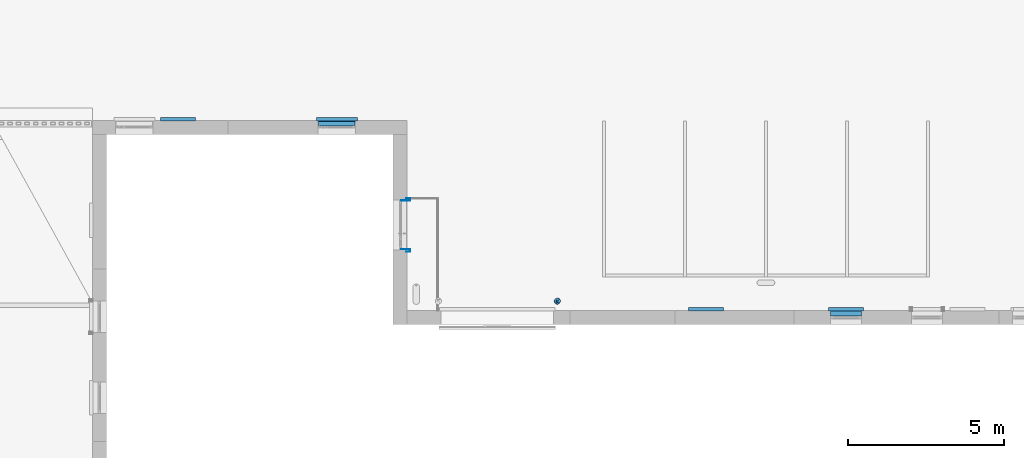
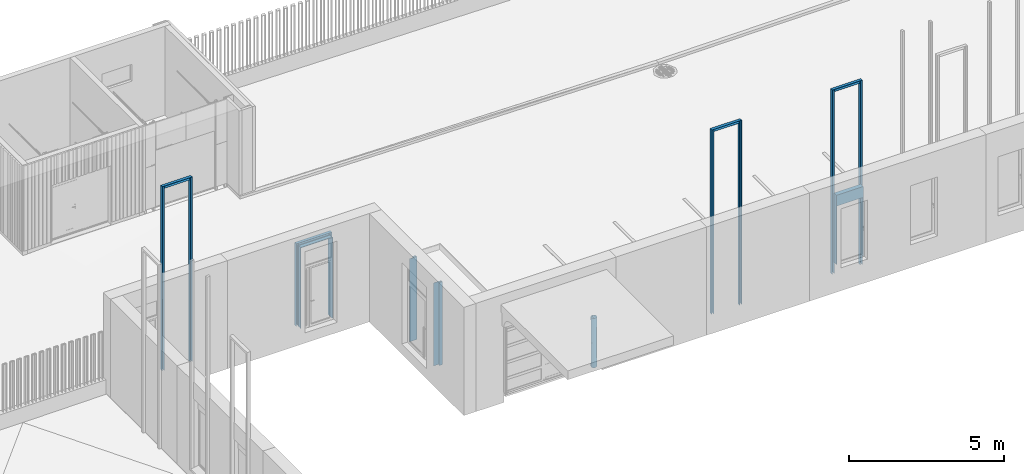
# One storey, part 50 of 77: 7 discrete accessories.
"""IFC2X3 building model written with IfcOpenShell, lengths in millimetres."""

from ifc_helpers import new_model, entity, si_unit, converted_unit, derived_unit, direction, frame, origin, origin_2d_with_axis, place, context, subcontext, project, spatial, polyline, rectangle, outline, extrude, faceted_brep, source, transform, mapped, material, type_object, type_shapes, element, save


model = new_model("IFC2X3")

# Units and contexts
model_context = context("Model", 3, precision=0.01, world=origin(), true_north=direction((6.12303176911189e-17, 1.0)))
body_context = subcontext(model_context, "Body", "Model", "MODEL_VIEW")
ifc_project = project(units=[si_unit("LENGTHUNIT", "METRE", prefix="MILLI"), si_unit("AREAUNIT", "SQUARE_METRE"), si_unit("VOLUMEUNIT", "CUBIC_METRE"), converted_unit("PLANEANGLEUNIT", "DEGREE", entity("IfcRatioMeasure", 0.0174532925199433), si_unit("PLANEANGLEUNIT", "RADIAN"), dimensions=[0, 0, 0, 0, 0, 0, 0]), si_unit("MASSUNIT", "GRAM", prefix="KILO"), derived_unit("MASSDENSITYUNIT", [(si_unit("MASSUNIT", "GRAM", prefix="KILO"), 1), (si_unit("LENGTHUNIT", "METRE"), -3)]), si_unit("TIMEUNIT", "SECOND"), si_unit("FREQUENCYUNIT", "HERTZ"), si_unit("THERMODYNAMICTEMPERATUREUNIT", "DEGREE_CELSIUS"), derived_unit("THERMALTRANSMITTANCEUNIT", [(si_unit("MASSUNIT", "GRAM", prefix="KILO"), 1), (si_unit("THERMODYNAMICTEMPERATUREUNIT", "KELVIN"), -1), (si_unit("TIMEUNIT", "SECOND"), -3)]), derived_unit("VOLUMETRICFLOWRATEUNIT", [(si_unit("LENGTHUNIT", "METRE"), 3), (si_unit("TIMEUNIT", "SECOND"), -1)]), si_unit("ELECTRICCURRENTUNIT", "AMPERE"), si_unit("ELECTRICVOLTAGEUNIT", "VOLT"), si_unit("POWERUNIT", "WATT"), si_unit("FORCEUNIT", "NEWTON", prefix="KILO"), si_unit("ILLUMINANCEUNIT", "LUX"), si_unit("LUMINOUSFLUXUNIT", "LUMEN"), si_unit("LUMINOUSINTENSITYUNIT", "CANDELA"), derived_unit("USERDEFINED", [(si_unit("MASSUNIT", "GRAM", prefix="KILO"), -1), (si_unit("LENGTHUNIT", "METRE"), -2), (si_unit("TIMEUNIT", "SECOND"), 3), (si_unit("LUMINOUSFLUXUNIT", "LUMEN"), 1)]), derived_unit("LINEARVELOCITYUNIT", [(si_unit("LENGTHUNIT", "METRE"), 1), (si_unit("TIMEUNIT", "SECOND"), -1)]), si_unit("PRESSUREUNIT", "PASCAL"), derived_unit("USERDEFINED", [(si_unit("LENGTHUNIT", "METRE"), -2), (si_unit("MASSUNIT", "GRAM", prefix="KILO"), 1), (si_unit("TIMEUNIT", "SECOND"), -2)])], contexts=[model_context])

# Site, building, storey
site_placement = place(None, origin())
site = spatial("IfcSite", under=ifc_project, at=site_placement, Name="Default", CompositionType="ELEMENT")
building_placement = place(site_placement, origin())
building = spatial("IfcBuilding", under=site, at=building_placement, CompositionType="ELEMENT")
storey_placement = place(building_placement, origin())
storey = spatial("IfcBuildingStorey", under=building, at=storey_placement, Name="1. KORRUS", CompositionType="ELEMENT", Elevation=0.0)

# Discrete accessories
ifc_material_1 = material(Name="Default New Material-must-varv")
discrete_accessory_type_1 = type_object("IfcDiscreteAccessoryType", Name="ukse-pollar", material=ifc_material_1)
shared_shape_1 = source(origin(), body_context, "Body", "Brep", [
    faceted_brep([(83.7498316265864, 0.0, 1211.3118064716), (91.8749158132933, 0.0, 1205.6559032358), (100.0, 0.0, 1200.0), (97.6882221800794, 13.1107435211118, 1200.0), (95.8287421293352, 23.6563789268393, 1200.0), (93.969262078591, 34.2020143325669, 1200.0), (76.9390417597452, 0.0, 1216.05282423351), (63.3022221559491, 75.4406506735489, 1200.0), (62.8416939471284, 39.8030161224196, 1218.4526620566), (69.2436158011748, 37.0764107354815, 1215.9880775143), (-97.6882221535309, 13.110743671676, 1200.0), (-100.0, 0.0, 1200.0), (-91.8749158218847, 0.0, 1205.65590322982), (-83.7498316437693, 0.0, 1211.31180645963), (-76.9390417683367, 0.0, 1216.05282422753), (-93.9692620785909, 34.2020143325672, 1200.0), (-95.8287421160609, 23.6563790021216, 1200.0), (61.6281008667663, 0.0, 1224.0406107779), (76.604444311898, 64.278760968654, 1200.0), (85.2868531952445, 49.2403876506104, 1200.0), (-3.54862814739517, 32.9400963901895, 1234.4920463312), (9.03191194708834, 0.0, 1237.09268012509), (4.40844307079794, 58.3778316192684, 1226.30016518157), (54.6170308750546, 47.6944043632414, 1219.50624940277), (44.627798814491, 0.0, 1230.53414834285), (25.5588463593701, 59.4119136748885, 1223.53680168), (33.6824088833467, 92.5416578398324, 1200.0), (17.3648177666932, 98.4807753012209, 1200.0), (-61.6281008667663, 0.0, 1224.0406107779), (-85.2868531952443, 49.2403876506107, 1200.0), (-70.128251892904, 0.0, 1220.79384199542), (36.1276477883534, 0.0, 1233.78091712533), (43.4209832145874, 50.3665618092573, 1222.6504135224), (70.128251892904, 0.0, 1220.79384199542), (-76.6044443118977, 64.2787609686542, 1200.0), (50.0, 86.6025403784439, 1200.0), (-50.0, 86.6025403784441, 1200.0), (-54.4185160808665, 48.7244133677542, 1219.21017541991), (-43.392270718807, 54.0995868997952, 1221.20165944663), (27.095735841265, 0.0, 1234.88483812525), (35.2622305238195, 66.2009236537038, 1218.09661192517), (-62.8416940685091, 39.8030246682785, 1218.45265938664), (-63.3022221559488, 75.4406506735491, 1200.0), (18.0638238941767, 0.0, 1235.98875912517), (18.4754636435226, 34.2574490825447, 1233.0588958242), (-69.2436179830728, 37.0764202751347, 1215.98807356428), (-53.1279498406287, 0.0, 1227.28737956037), (15.0400910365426, 63.9380091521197, 1223.05106581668), (0.0, 98.4807753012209, 1200.0), (-33.6824088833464, 92.5416578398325, 1200.0), (-31.0939161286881, 53.155099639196, 1224.97270928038), (-21.496736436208, 71.3818883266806, 1218.36002279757), (-27.095735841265, 0.0, 1234.88483812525), (-36.1276477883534, 0.0, 1233.78091712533), (-13.9644320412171, 48.8776365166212, 1229.32055829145), (53.1279498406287, 0.0, 1227.28737956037), (-44.627798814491, 0.0, 1230.53414834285), (-18.0638238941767, 0.0, 1235.98875912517), (-9.03191194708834, 0.0, 1237.09268012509), (-9.80597558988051, 78.5292492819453, 1215.62108797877), (-17.3648177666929, 98.480775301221, 1200.0), (0.0, 0.0, 1238.19660112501), (-97.6882221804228, -13.1107435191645, 1200.0), (-95.8287421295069, -23.6563789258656, 1200.0), (-93.9692620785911, -34.2020143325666, 1200.0), (-63.3022221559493, -75.4406506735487, 1200.0), (-62.8416938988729, -39.8030161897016, 1218.45266205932), (-69.2436157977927, -37.076410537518, 1215.98807757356), (97.6882221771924, -13.110743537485, 1200.0), (93.9692620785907, -34.2020143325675, 1200.0), (95.8287421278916, -23.6563789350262, 1200.0), (-76.6044443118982, -64.2787609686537, 1200.0), (-85.2868531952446, -49.2403876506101, 1200.0), (3.54862829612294, -32.9400954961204, 1234.4920465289), (-4.40844201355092, -58.3778322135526, 1226.30016496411), (-54.6170308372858, -47.6944042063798, 1219.50624947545), (-25.5588462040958, -59.4119134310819, 1223.53680181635), (-33.682408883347, -92.5416578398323, 1200.0), (-17.3648177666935, -98.4807753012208, 1200.0), (-43.4209830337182, -50.3665619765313, 1222.65041351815), (-50.0, -86.6025403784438, 1200.0), (62.8416939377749, -39.803016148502, 1218.45266205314), (54.4185175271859, -48.7244091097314, 1219.21017640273), (63.3022221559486, -75.4406506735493, 1200.0), (85.2868531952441, -49.240387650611, 1200.0), (76.6044443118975, -64.2787609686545, 1200.0), (50.0, -86.6025403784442, 1200.0), (43.3922717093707, -54.0995849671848, 1221.20165990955), (-35.2622303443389, -66.2009242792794, 1218.09661165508), (-18.475463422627, -34.2574489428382, 1233.05889588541), (69.2436157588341, -37.0764105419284, 1215.98807759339), (-15.0400904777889, -63.9380089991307, 1223.05106595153), (0.0, -98.4807753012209, 1200.0), (33.6824088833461, -92.5416578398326, 1200.0), (31.0939160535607, -53.155100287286, 1224.97270904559), (21.4967358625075, -71.3818881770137, 1218.3600229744), (13.9644325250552, -48.8776338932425, 1229.32055915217), (9.80597229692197, -78.5292495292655, 1215.62108807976), (17.3648177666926, -98.480775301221, 1200.0), (0.0, 0.0, 1200.0)], [[[0, 1, 2, 3, 4, 5, 6]], [[7, 8, 9]], [[10, 11, 12, 13, 14, 15, 16]], [[9, 17, 18]], [[17, 19, 18]], [[20, 21, 22]], [[8, 23, 24]], [[25, 26, 27]], [[28, 29, 30]], [[19, 6, 5]], [[31, 23, 32]], [[14, 30, 29]], [[6, 19, 33]], [[29, 28, 34]], [[32, 23, 35]], [[36, 37, 38]], [[39, 32, 40]], [[29, 15, 14]], [[41, 37, 42]], [[43, 44, 21]], [[33, 19, 17]], [[45, 28, 46]], [[42, 37, 36]], [[45, 46, 41]], [[25, 43, 39]], [[47, 22, 44]], [[26, 40, 35]], [[47, 27, 48]], [[49, 50, 51]], [[52, 38, 53]], [[22, 54, 20]], [[39, 31, 32]], [[25, 40, 26]], [[24, 55, 8]], [[35, 23, 7]], [[23, 31, 24]], [[9, 8, 55]], [[23, 8, 7]], [[37, 41, 56]], [[51, 50, 54]], [[38, 52, 50]], [[57, 50, 52]], [[50, 57, 54]], [[38, 49, 36]], [[54, 57, 58]], [[48, 59, 22]], [[38, 37, 53]], [[49, 38, 50]], [[56, 41, 46]], [[56, 53, 37]], [[45, 42, 34]], [[17, 9, 55]], [[7, 9, 18]], [[42, 45, 41]], [[28, 45, 34]], [[47, 44, 25]], [[25, 44, 43]], [[22, 21, 44]], [[25, 27, 47]], [[51, 59, 60]], [[47, 48, 22]], [[39, 40, 25]], [[35, 40, 32]], [[58, 20, 54]], [[20, 58, 61]], [[21, 20, 61]], [[59, 51, 54]], [[49, 51, 60]], [[22, 59, 54]], [[48, 60, 59]], [[13, 12, 11, 62, 63, 64, 14]], [[65, 66, 67]], [[68, 2, 1, 0, 6, 69, 70]], [[67, 28, 71]], [[28, 72, 71]], [[73, 58, 74]], [[66, 75, 56]], [[76, 77, 78]], [[79, 75, 80]], [[53, 75, 79]], [[81, 82, 83]], [[6, 84, 69]], [[84, 17, 85]], [[86, 82, 87]], [[17, 84, 33]], [[52, 79, 88]], [[33, 84, 6]], [[72, 14, 64]], [[57, 89, 58]], [[14, 72, 30]], [[30, 72, 28]], [[90, 17, 55]], [[83, 82, 86]], [[90, 55, 81]], [[76, 57, 52]], [[91, 74, 89]], [[77, 88, 80]], [[91, 78, 92]], [[93, 94, 95]], [[39, 87, 31]], [[74, 96, 73]], [[52, 53, 79]], [[76, 88, 77]], [[56, 46, 66]], [[80, 75, 65]], [[75, 53, 56]], [[67, 66, 46]], [[75, 66, 65]], [[82, 81, 24]], [[95, 94, 96]], [[87, 39, 94]], [[43, 94, 39]], [[94, 43, 96]], [[87, 93, 86]], [[96, 43, 21]], [[92, 97, 74]], [[87, 82, 31]], [[93, 87, 94]], [[24, 81, 55]], [[24, 31, 82]], [[90, 83, 85]], [[28, 67, 46]], [[65, 67, 71]], [[83, 90, 81]], [[17, 90, 85]], [[91, 89, 76]], [[76, 89, 57]], [[74, 58, 89]], [[76, 78, 91]], [[95, 97, 98]], [[91, 92, 74]], [[52, 88, 76]], [[80, 88, 79]], [[21, 73, 96]], [[73, 21, 61]], [[58, 73, 61]], [[97, 95, 96]], [[93, 95, 98]], [[74, 97, 96]], [[92, 98, 97]], [[99, 15, 29]], [[99, 29, 34]], [[99, 34, 42]], [[99, 42, 36]], [[99, 36, 49]], [[99, 49, 60]], [[99, 60, 48]], [[99, 16, 15]], [[99, 10, 16]], [[99, 11, 10]], [[99, 48, 27]], [[99, 27, 26]], [[99, 26, 35]], [[99, 35, 7]], [[99, 7, 18]], [[99, 18, 19]], [[99, 19, 5]], [[99, 5, 4]], [[99, 4, 3]], [[99, 3, 2]], [[99, 2, 68]], [[99, 62, 11]], [[99, 63, 62]], [[99, 64, 63]], [[99, 72, 64]], [[99, 71, 72]], [[99, 65, 71]], [[99, 80, 65]], [[99, 77, 80]], [[99, 78, 77]], [[99, 68, 70]], [[99, 70, 69]], [[99, 69, 84]], [[99, 84, 85]], [[99, 85, 83]], [[99, 83, 86]], [[99, 86, 93]], [[99, 93, 98]], [[99, 98, 92]], [[99, 92, 78]]]),
    faceted_brep([(25.8819045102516, -96.592582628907, 1200.0), (50.0, -86.6025403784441, 1200.0), (70.7106781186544, -70.7106781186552, 1200.0), (86.6025403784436, -50.0, 1200.0), (96.5925826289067, -25.8819045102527, 1200.0), (100.0, 0.0, 1200.0), (96.5925826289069, 25.8819045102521, 1200.0), (86.6025403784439, 50.0, 1200.0), (70.7106781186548, 70.7106781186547, 1200.0), (50.0, 86.6025403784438, 1200.0), (25.8819045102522, 96.5925826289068, 1200.0), (0.0, 100.0, 1200.0), (-25.8819045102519, 96.5925826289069, 1200.0), (-50.0, 86.602540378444, 1200.0), (-70.7106781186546, 70.7106781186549, 1200.0), (-86.6025403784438, 50.0, 1200.0), (-96.5925826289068, 25.8819045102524, 1200.0), (-100.0, 0.0, 1200.0), (-96.5925826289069, -25.8819045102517, 1200.0), (-86.6025403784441, -50.0, 1200.0), (-70.710678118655, -70.7106781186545, 1200.0), (-50.0, -86.6025403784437, 1200.0), (-25.8819045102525, -96.5925826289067, 1200.0), (0.0, -100.0, 1200.0), (0.0, 100.0, -750.0), (25.8819045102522, 96.5925826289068, -750.0), (50.0, 86.6025403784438, -750.0), (70.7106781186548, 70.7106781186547, -750.0), (86.6025403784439, 50.0, -750.0), (96.5925826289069, 25.8819045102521, -750.0), (100.0, 0.0, -750.0), (96.5925826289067, -25.8819045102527, -750.0), (86.6025403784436, -50.0, -750.0), (70.7106781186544, -70.7106781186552, -750.0), (50.0, -86.6025403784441, -750.0), (25.8819045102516, -96.592582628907, -750.0), (0.0, -100.0, -750.0), (-25.8819045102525, -96.5925826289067, -750.0), (-50.0, -86.6025403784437, -750.0), (-70.710678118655, -70.7106781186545, -750.0), (-86.6025403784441, -50.0, -750.0), (-96.5925826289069, -25.8819045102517, -750.0), (-100.0, 0.0, -750.0), (-96.5925826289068, 25.8819045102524, -750.0), (-86.6025403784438, 50.0, -750.0), (-70.7106781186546, 70.7106781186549, -750.0), (-50.0, 86.602540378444, -750.0), (-25.8819045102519, 96.5925826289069, -750.0), (-79.3353340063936, -60.8761429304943, 225.0), (-95.1291375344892, -30.8293235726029, 225.0), (-92.387953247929, -38.2683432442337, -285.980854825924), (-38.2683432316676, -92.3879532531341, -299.59510263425), (-60.8761428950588, -79.3353340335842, -151.214692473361), (55.4391010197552, -83.225633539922, 225.0), (79.335334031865, -60.8761428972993, 225.0), (60.8761429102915, -79.3353340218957, 601.214692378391), (-79.3353340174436, -60.8761429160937, 749.595102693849), (-13.0526192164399, -99.1444861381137, -151.214692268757), (13.0526192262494, -99.1444861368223, -269.40187286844), (4.65337325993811, -99.8916719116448, 225.0), (-19.6480455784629, -98.0507741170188, 225.0), (-38.2683432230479, -92.3879532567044, 749.595102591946), (-38.2683432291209, -92.387953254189, 225.0), (-79.3353340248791, -60.8761429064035, -299.595102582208), (-60.876142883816, -79.3353340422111, 601.214692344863), (79.335334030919, -60.8761428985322, -299.595102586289), (60.8761429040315, -79.3353340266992, -151.214692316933), (-98.5078583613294, -17.2105154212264, -334.254320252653), (-100.0, 0.0, 501.660929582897), (-100.0, 0.0, -51.6552314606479), (-92.3879532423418, -38.2683432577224, 735.980854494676), (-98.507858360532, -17.2105154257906, 784.254320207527), (100.0, 0.0, 501.659108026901), (95.1291375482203, -30.8293235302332, 225.0), (100.0, 0.0, -51.6591080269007), (-55.4391010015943, -83.2256335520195, 225.0), (38.2683432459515, -92.3879532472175, 749.595102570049), (-13.0526192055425, -99.1444861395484, 601.214692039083), (38.2683432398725, -92.3879532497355, -299.595102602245), (92.3879532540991, -38.2683432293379, 735.980854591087), (92.3879532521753, -38.2683432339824, -285.980854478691), (79.335334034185, -60.8761428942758, 749.595102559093), (98.5078583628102, -17.2105154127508, 784.254320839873), (13.0526192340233, -99.1444861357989, 719.401872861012), (98.5078583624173, -17.2105154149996, -334.254320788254), (38.268343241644, -92.3879532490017, 225.0), (98.5078583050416, 17.210515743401, -334.254323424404), (-79.3353340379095, 60.8761428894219, -299.595102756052), (-60.876142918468, 79.3353340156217, -151.214692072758), (79.3353338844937, 60.8761430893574, -299.595101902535), (13.0526191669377, 99.1444861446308, -151.214692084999), (38.2683431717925, 92.3879532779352, -299.595102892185), (19.6480455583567, 98.0507741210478, 225.0), (38.2683431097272, 92.3879533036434, 749.595103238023), (38.2683431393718, 92.3879532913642, 225.0), (-13.0526193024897, 99.1444861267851, 719.401872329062), (66.0410934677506, 75.0904386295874, 225.000002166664), (60.8761427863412, 79.3353341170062, -151.214692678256), (-13.0526192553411, 99.1444861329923, -269.401871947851), (-4.6533732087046, 99.8916719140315, 224.999998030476), (95.1291373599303, 30.829324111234, 225.000013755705), (-92.3879532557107, 38.2683432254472, -285.980854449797), (-98.5078583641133, 17.210515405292, -334.254320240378), (-95.1291375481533, 30.8293235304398, 225.0), (79.3353338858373, 60.8761430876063, 749.595105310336), (92.3879530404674, 38.2683437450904, -285.980851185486), (79.3353338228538, 60.876143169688, 225.000002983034), (-38.2683432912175, 92.3879532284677, 749.595102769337), (92.38795316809, 38.2683434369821, 735.980862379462), (60.8761427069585, 79.3353341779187, 601.214694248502), (13.0526190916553, 99.144486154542, 601.214690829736), (-55.4391010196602, 83.2256335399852, 225.0), (-79.3353340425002, 60.8761428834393, 225.0), (-60.8761429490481, 79.3353339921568, 601.214692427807), (-38.2683432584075, 92.387953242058, -299.595102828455), (-92.3879532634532, 38.268343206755, 735.980854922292), (-79.3353340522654, 60.8761428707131, 749.59510268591), (-98.5078583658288, 17.2105153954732, 784.254320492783), (98.5078583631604, 17.2105154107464, 784.25432452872), (-38.2683432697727, 92.3879532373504, 225.0)], [[[0, 1, 2, 3, 4, 5, 6, 7, 8, 9, 10, 11, 12, 13, 14, 15, 16, 17, 18, 19, 20, 21, 22, 23]], [[24, 25, 26, 27, 28, 29, 30, 31, 32, 33, 34, 35, 36, 37, 38, 39, 40, 41, 42, 43, 44, 45, 46, 47]], [[48, 49, 50]], [[51, 52, 38]], [[53, 54, 55]], [[56, 20, 19]], [[38, 37, 51]], [[57, 58, 59]], [[51, 60, 61, 62]], [[63, 52, 48]], [[64, 56, 48]], [[65, 66, 33]], [[57, 60, 51]], [[41, 40, 50]], [[41, 67, 42]], [[68, 69, 49]], [[40, 39, 63]], [[66, 34, 33]], [[49, 70, 71]], [[72, 73, 74]], [[57, 37, 36]], [[75, 61, 64]], [[1, 0, 76]], [[20, 64, 21]], [[22, 21, 61]], [[61, 77, 22]], [[75, 51, 62, 61]], [[35, 34, 78]], [[58, 36, 35]], [[75, 48, 52]], [[33, 32, 65]], [[54, 73, 79]], [[65, 80, 54]], [[79, 81, 54]], [[79, 82, 4]], [[50, 67, 41]], [[56, 64, 20]], [[4, 82, 5]], [[23, 22, 77]], [[77, 83, 23]], [[31, 80, 32]], [[39, 38, 52]], [[17, 68, 71]], [[42, 67, 69]], [[54, 81, 55]], [[66, 65, 54]], [[30, 74, 84]], [[5, 82, 72]], [[66, 53, 78]], [[55, 2, 1]], [[80, 84, 73]], [[70, 19, 18]], [[3, 2, 81]], [[56, 70, 48]], [[50, 63, 48]], [[36, 58, 57]], [[0, 23, 83]], [[79, 4, 3]], [[76, 55, 1]], [[53, 76, 85, 78]], [[78, 58, 35]], [[85, 83, 59]], [[77, 60, 59]], [[76, 83, 85]], [[58, 78, 85]], [[50, 40, 63]], [[67, 49, 69]], [[71, 70, 18]], [[48, 70, 49]], [[79, 3, 81]], [[82, 73, 72]], [[84, 80, 31]], [[54, 80, 73]], [[57, 51, 37]], [[64, 61, 21]], [[66, 78, 34]], [[83, 76, 0]], [[70, 56, 19]], [[52, 63, 39]], [[80, 65, 32]], [[55, 81, 2]], [[85, 59, 58]], [[83, 77, 59]], [[49, 67, 50]], [[17, 71, 18]], [[49, 71, 68]], [[73, 82, 79]], [[30, 84, 31]], [[73, 84, 74]], [[59, 60, 57]], [[61, 60, 77]], [[48, 75, 64]], [[51, 75, 52]], [[54, 53, 66]], [[76, 53, 55]], [[86, 30, 29]], [[87, 88, 45]], [[28, 27, 89]], [[90, 25, 24]], [[26, 25, 91]], [[91, 92, 93, 94]], [[12, 11, 95]], [[96, 89, 97]], [[90, 98, 99]], [[91, 90, 92]], [[74, 100, 72]], [[101, 102, 103]], [[88, 46, 45]], [[97, 27, 26]], [[8, 7, 104]], [[100, 105, 106]], [[13, 12, 107]], [[7, 6, 108]], [[109, 94, 93]], [[97, 91, 94]], [[10, 9, 93]], [[109, 9, 8]], [[28, 105, 29]], [[93, 110, 10]], [[111, 112, 113]], [[47, 46, 114]], [[96, 104, 106, 89]], [[104, 109, 8]], [[45, 44, 87]], [[112, 103, 115]], [[91, 97, 26]], [[87, 101, 112]], [[115, 116, 112]], [[105, 86, 29]], [[96, 94, 109]], [[16, 117, 17]], [[11, 10, 110]], [[110, 95, 11]], [[15, 14, 116]], [[115, 16, 15]], [[5, 72, 118]], [[112, 116, 113]], [[88, 87, 112]], [[104, 108, 106]], [[88, 111, 114]], [[113, 14, 13]], [[42, 69, 102]], [[17, 117, 68]], [[43, 101, 44]], [[108, 118, 100]], [[115, 117, 16]], [[24, 98, 90]], [[98, 24, 47]], [[68, 103, 69]], [[107, 113, 13]], [[111, 107, 119, 114]], [[114, 98, 47]], [[119, 95, 99]], [[110, 92, 99]], [[107, 95, 119]], [[98, 114, 119]], [[105, 28, 89]], [[86, 100, 74]], [[118, 108, 6]], [[106, 108, 100]], [[115, 15, 116]], [[117, 103, 68]], [[102, 101, 43]], [[112, 101, 103]], [[97, 89, 27]], [[105, 89, 106]], [[108, 104, 7]], [[90, 91, 25]], [[109, 93, 9]], [[88, 114, 46]], [[95, 107, 12]], [[101, 87, 44]], [[113, 116, 14]], [[119, 99, 98]], [[95, 110, 99]], [[100, 86, 105]], [[30, 86, 74]], [[5, 118, 6]], [[100, 118, 72]], [[103, 117, 115]], [[42, 102, 43]], [[103, 102, 69]], [[94, 96, 97]], [[104, 96, 109]], [[99, 92, 90]], [[93, 92, 110]], [[112, 111, 88]], [[107, 111, 113]]]),
])
type_shapes(discrete_accessory_type_1, [shared_shape_1])
discrete_accessory_1_placement = place(storey_placement, frame((14480.380313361, 22250.0517807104, 0.0), z_axis=(0.0, 0.0, 1.0), x_axis=(-1.0, 0.0, 0.0)))
element("IfcDiscreteAccessory", 1, at=discrete_accessory_1_placement, inside=storey, type_object=discrete_accessory_type_1, material=ifc_material_1, Name="ukse-pollar:ukse-pollar", ObjectType="ukse-pollar", context=body_context, shape_type="MappedRepresentation", body=[
    mapped(shared_shape_1, transform((0.0, 0.0, 0.0), scale=1.0)),
])
ifc_material_2 = material(Name="Must-al-komposiitplaat")
discrete_accessory_type_2 = type_object("IfcDiscreteAccessoryType", Name="akna-ylaplekid1000", material=ifc_material_2)
shared_shape_2 = source(origin(), body_context, "Body", "SweptSolid", [
    extrude(rectangle(XDim=20.0, YDim=959.999999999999, at=origin_2d_with_axis()), frame((0.0, -10.0, 2270.0), z_axis=(0.0, 0.0, 1.0), x_axis=(0.0, 1.0, 0.0)), (0.0, 0.0, 1.0), 409.999999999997),
    extrude(outline(polyline([(-500.0, -1370.0), (500.0, -1370.0), (500.0, 1360.0), (480.0, 1360.0), (480.0, -1350.0), (-480.0, -1350.0), (-480.0, 1360.0), (-500.0, 1360.0), (-500.0, -1370.0)])), frame((0.0, -160.0, 1330.0), z_axis=(0.0, 1.0, 0.0), x_axis=(1.0, 0.0, 0.0)), (0.0, 0.0, 1.0), 160.0),
])
type_shapes(discrete_accessory_type_2, [shared_shape_2])
discrete_accessory_2_placement = place(storey_placement, frame((23750.0, 21770.0517807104, 500.0), z_axis=(0.0, 0.0, 1.0), x_axis=(-1.0, 0.0, 0.0)))
element("IfcDiscreteAccessory", 2, at=discrete_accessory_2_placement, inside=storey, type_object=discrete_accessory_type_2, material=ifc_material_2, Name="akna-ylaplekid:akna-ylaplekid1000", ObjectType="akna-ylaplekid1000", context=body_context, shape_type="MappedRepresentation", body=[
    mapped(shared_shape_2, transform((0.0, 0.0, 0.0), scale=1.0)),
])
discrete_accessory_type_3 = type_object("IfcDiscreteAccessoryType", Name="akna-ylaplekid1000", material=ifc_material_1)
shared_shape_3 = source(origin(), body_context, "Body", "Brep", [
    faceted_brep([(80.0, 120.0, 0.0), (80.0, 0.0, 0.0), (76.0, 0.0, 0.0), (76.0, 116.0, 0.0), (4.0, 116.0, 0.0), (4.0, 0.0, 0.0), (0.0, 0.0, 0.0), (0.0, 120.0, 0.0), (80.0, 116.0, 7184.0), (80.0, 116.0, 7256.31946847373), (80.0, 0.0, 7265.9861351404), (80.0, 0.0, 7184.0), (80.0, 0.0, 7180.0), (1040.0, 0.0, 7180.0), (1040.0, 0.0, 0.0), (1044.0, 0.0, 0.0), (1044.0, 0.0, 7265.9861351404), (1116.0, 0.0, 7265.9861351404), (1116.0, 0.0, 0.0), (1120.0, 0.0, 0.0), (1120.0, 0.0, 7270.0), (0.0, 0.0, 7270.0), (4.0, 0.0, 7265.9861351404), (76.0, 0.0, 7265.9861351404), (1040.0, 0.0, 7184.0), (1040.0, 0.0, 7265.9861351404), (76.0, 116.0, 7256.31946847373), (4.0, 116.0, 7256.31946847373), (0.0, 120.0, 7260.0), (1120.0, 120.0, 7260.0), (1120.0, 120.0, 0.0), (1040.0, 120.0, 0.0), (1040.0, 120.0, 7180.0), (80.0, 120.0, 7180.0), (1040.0, 116.0, 7184.0), (1040.0, 116.0, 7256.31946847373), (1116.0, 116.0, 0.0), (1044.0, 116.0, 0.0), (1044.0, 116.0, 7256.31946847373), (1116.0, 116.0, 7256.31946847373)], [[[0, 1, 2, 3, 4, 5, 6, 7]], [[8, 9, 10, 11]], [[1, 12, 13, 14, 15, 16, 17, 18, 19, 20, 21, 6, 5, 22, 23, 2], [24, 11, 10, 25]], [[2, 23, 26, 3]], [[3, 26, 27, 4]], [[4, 27, 22, 5]], [[6, 21, 28, 7]], [[7, 28, 29, 30, 31, 32, 33, 0]], [[20, 29, 28, 21]], [[34, 35, 9, 8]], [[8, 11, 24, 34]], [[32, 13, 12, 33]], [[31, 30, 19, 18, 36, 37, 15, 14]], [[24, 25, 35, 34]], [[37, 38, 16, 15]], [[36, 39, 38, 37]], [[18, 17, 39, 36]], [[30, 29, 20, 19]], [[22, 27, 26, 23]], [[10, 9, 35, 25]], [[16, 38, 39, 17]], [[14, 13, 32, 31]], [[0, 33, 12, 1]]]),
])
type_shapes(discrete_accessory_type_3, [shared_shape_3])
for number, where in (
    (3, (1740.00524004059, 28030.0, 0.0)),
    (4, (18690.0, 21930.0517807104, 0.0)),
    (5, (23190.0, 21930.0517807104, 0.0)),
):
    element("IfcDiscreteAccessory", number, at=place(storey_placement, frame(where)), inside=storey, type_object=discrete_accessory_type_3, material=ifc_material_1, Name="akna-ylaplekid_2k-A:akna-ylaplekid1000", ObjectType="akna-ylaplekid1000", context=body_context, shape_type="MappedRepresentation", body=[
        mapped(shared_shape_3, transform((0.0, 0.0, 0.0), scale=1.0)),
    ])
discrete_accessory_type_4 = type_object("IfcDiscreteAccessoryType", Name="akna-ylaplekid1200", material=ifc_material_1)
shared_shape_4 = source(origin(), body_context, "Body", "Brep", [
    faceted_brep([(-580.0, 0.0, -500.0), (-600.0, 0.0, -500.0), (-600.0, 4.0, -500.0), (-584.0, 4.0, -500.0), (-584.0, 156.0, -500.0), (-600.0, 156.0, -500.0), (-600.0, 160.0, -500.0), (-580.0, 160.0, -500.0), (-580.0, 160.0, 2680.0), (-580.0, 0.0, 2680.0), (-600.0, 160.0, 2700.0), (600.0, 160.0, 2700.0), (600.0, 160.0, -500.0), (580.0, 160.0, -500.0), (580.0, 160.0, 2680.0), (-600.0, 156.0, 2700.0), (-584.0, 156.0, 2684.0), (584.0, 156.0, 2684.0), (584.0, 156.0, -500.0), (600.0, 156.0, -500.0), (600.0, 156.0, 2700.0), (-584.0, 4.0, 2684.0), (-600.0, 4.0, 2700.0), (600.0, 4.0, 2700.0), (600.0, 4.0, -500.0), (584.0, 4.0, -500.0), (584.0, 4.0, 2684.0), (-600.0, 0.0, 2700.0), (580.0, 0.0, 2680.0), (580.0, 0.0, -500.0), (600.0, 0.0, -500.0), (600.0, 0.0, 2700.0)], [[[0, 1, 2, 3, 4, 5, 6, 7]], [[7, 8, 9, 0]], [[6, 10, 11, 12, 13, 14, 8, 7]], [[5, 15, 10, 6]], [[4, 16, 17, 18, 19, 20, 15, 5]], [[3, 21, 16, 4]], [[2, 22, 23, 24, 25, 26, 21, 3]], [[1, 27, 22, 2]], [[0, 9, 28, 29, 30, 31, 27, 1]], [[8, 14, 28, 9]], [[15, 20, 11, 10]], [[21, 26, 17, 16]], [[27, 31, 23, 22]], [[29, 13, 12, 19, 18, 25, 24, 30]], [[14, 13, 29, 28]], [[20, 19, 12, 11]], [[26, 25, 18, 17]], [[31, 30, 24, 23]]]),
    faceted_brep([(-580.0, 280.0, -500.0), (-580.0, 160.0, -500.0), (-584.0, 160.0, -500.0), (-584.0, 276.0, -500.0), (-656.0, 276.0, -500.0), (-656.0, 160.0, -500.0), (-660.0, 160.0, -500.0), (-660.0, 280.0, -500.0), (-580.0, 276.0, 2684.0), (-580.0, 276.0, 2756.31946847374), (-580.0, 160.0, 2765.9861351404), (-580.0, 160.0, 2684.0), (-580.0, 160.0, 2680.0), (580.0, 160.0, 2680.0), (580.0, 160.0, -500.0), (584.0, 160.0, -500.0), (584.0, 160.0, 2765.9861351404), (656.0, 160.0, 2765.9861351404), (656.0, 160.0, -500.0), (660.0, 160.0, -500.0), (660.0, 160.0, 2770.0), (-660.0, 160.0, 2770.0), (-656.0, 160.0, 2765.9861351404), (-584.0, 160.0, 2765.9861351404), (580.0, 160.0, 2684.0), (580.0, 160.0, 2765.9861351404), (-584.0, 276.0, 2756.31946847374), (-656.0, 276.0, 2756.31946847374), (-660.0, 280.0, 2760.0), (660.0, 280.0, 2760.0), (660.0, 280.0, -500.0), (580.0, 280.0, -500.0), (580.0, 280.0, 2680.0), (-580.0, 280.0, 2680.0), (580.0, 276.0, 2684.0), (580.0, 276.0, 2756.31946847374), (656.0, 276.0, -500.0), (584.0, 276.0, -500.0), (584.0, 276.0, 2756.31946847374), (656.0, 276.0, 2756.31946847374)], [[[0, 1, 2, 3, 4, 5, 6, 7]], [[8, 9, 10, 11]], [[1, 12, 13, 14, 15, 16, 17, 18, 19, 20, 21, 6, 5, 22, 23, 2], [24, 11, 10, 25]], [[2, 23, 26, 3]], [[3, 26, 27, 4]], [[4, 27, 22, 5]], [[6, 21, 28, 7]], [[7, 28, 29, 30, 31, 32, 33, 0]], [[20, 29, 28, 21]], [[34, 35, 9, 8]], [[8, 11, 24, 34]], [[32, 13, 12, 33]], [[31, 30, 19, 18, 36, 37, 15, 14]], [[24, 25, 35, 34]], [[37, 38, 16, 15]], [[36, 39, 38, 37]], [[18, 17, 39, 36]], [[30, 29, 20, 19]], [[22, 27, 26, 23]], [[10, 9, 35, 25]], [[16, 38, 39, 17]], [[14, 13, 32, 31]], [[0, 33, 12, 1]]]),
])
type_shapes(discrete_accessory_type_4, [shared_shape_4])
discrete_accessory_3_placement = place(storey_placement, frame((7400.0, 27870.0, 500.0)))
element("IfcDiscreteAccessory", 6, at=discrete_accessory_3_placement, inside=storey, type_object=discrete_accessory_type_4, material=ifc_material_1, Name="akna-ylaplekid_1k-A160:akna-ylaplekid1200", ObjectType="akna-ylaplekid1200", context=body_context, shape_type="MappedRepresentation", body=[
    mapped(shared_shape_4, transform((0.0, 0.0, 0.0), scale=1.0)),
])
discrete_accessory_type_5 = type_object("IfcDiscreteAccessoryType", Name="akna-ylaplekid1600", material=ifc_material_1)
shared_shape_5 = source(origin(), body_context, "Body", "SweptSolid", [
    extrude(outline(polyline([(-101.0, -40.0), (179.0, -40.0), (179.0, -36.0), (-97.0, -36.0), (-97.0, 36.0), (19.0, 36.0), (19.0, 40.0), (-101.0, 40.0), (-101.0, -40.0)])), frame((-820.0, -179.0, -500.0), z_axis=(0.0, 0.0, 1.0), x_axis=(0.0, 1.0, 0.0)), (0.0, 0.0, 1.0), 3270.0),
    extrude(outline(polyline([(-40.0, -101.0), (40.0, -101.0), (40.0, 19.0), (36.0, 19.0), (36.0, -97.0), (-36.0, -97.0), (-36.0, 179.0), (-40.0, 179.0), (-40.0, -101.0)])), frame((820.0, -179.0, -500.0)), (0.0, 0.0, 1.0), 3270.0),
])
type_shapes(discrete_accessory_type_5, [shared_shape_5])
discrete_accessory_4_placement = place(storey_placement, frame((9470.0, 24700.0, 500.0), z_axis=(0.0, 0.0, 1.0), x_axis=(0.0, 1.0, 0.0)))
element("IfcDiscreteAccessory", 7, at=discrete_accessory_4_placement, inside=storey, type_object=discrete_accessory_type_5, material=ifc_material_1, Name="akna-ylaplekid_1k-uks:akna-ylaplekid1600", ObjectType="akna-ylaplekid1600", context=body_context, shape_type="MappedRepresentation", body=[
    mapped(shared_shape_5, transform((0.0, 0.0, 0.0), scale=1.0)),
])

save(model, "model.ifc")
